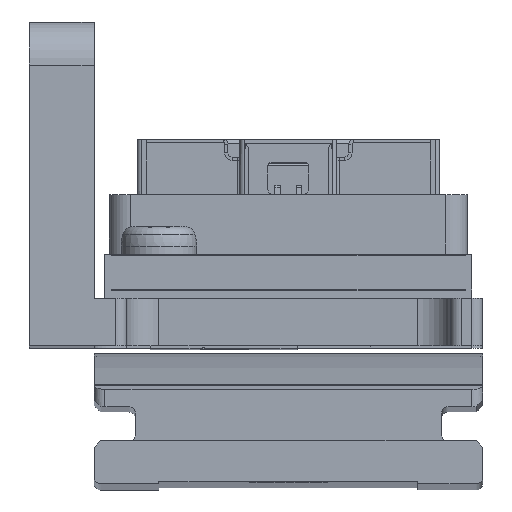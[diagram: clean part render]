
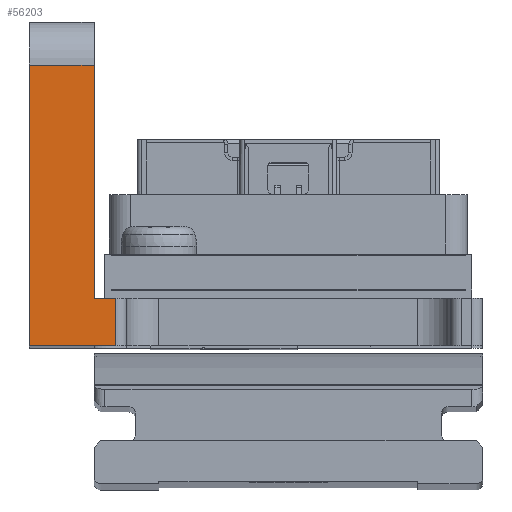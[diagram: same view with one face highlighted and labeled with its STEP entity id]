
A CAD part, top view. The second image highlights one B-rep face of the part: STEP entity #56203.
In plain terms, the highlighted planar face has unit normal (0, 0, 1).
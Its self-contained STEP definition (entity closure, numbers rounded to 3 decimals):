
#1159 = VERTEX_POINT ( 'NONE', #39634 ) ;
#1707 = CARTESIAN_POINT ( 'NONE',  ( 0., 13., 37.5 ) ) ;
#4162 = AXIS2_PLACEMENT_3D ( 'NONE', #29966, #55565, #7286 ) ;
#6655 = DIRECTION ( 'NONE',  ( -1., 0., 0. ) ) ;
#7286 = DIRECTION ( 'NONE',  ( -1., 0., 0. ) ) ;
#8971 = LINE ( 'NONE', #25866, #33551 ) ;
#10168 = ORIENTED_EDGE ( 'NONE', *, *, #41789, .T. ) ;
#10324 = DIRECTION ( 'NONE',  ( 0., 1., 0. ) ) ;
#11667 = VERTEX_POINT ( 'NONE', #20547 ) ;
#14358 = EDGE_CURVE ( 'NONE', #53769, #30099, #8971, .T. ) ;
#15354 = EDGE_CURVE ( 'NONE', #30099, #30611, #28800, .T. ) ;
#20547 = CARTESIAN_POINT ( 'NONE',  ( 0., 13., 37.5 ) ) ;
#21946 = DIRECTION ( 'NONE',  ( -1., 0., 0. ) ) ;
#22498 = EDGE_LOOP ( 'NONE', ( #40302, #51615, #10168, #38696, #45938, #48378 ) ) ;
#23544 = LINE ( 'NONE', #37197, #45665 ) ;
#25866 = CARTESIAN_POINT ( 'NONE',  ( 21., 0., 37.5 ) ) ;
#26726 = DIRECTION ( 'NONE',  ( 1., 0., 0. ) ) ;
#27374 = EDGE_CURVE ( 'NONE', #1159, #29647, #40853, .T. ) ;
#28065 = CARTESIAN_POINT ( 'NONE',  ( 3., 15., 37.5 ) ) ;
#28800 = LINE ( 'NONE', #47669, #32544 ) ;
#28959 = CARTESIAN_POINT ( 'NONE',  ( 4., 0., 37.5 ) ) ;
#29647 = VERTEX_POINT ( 'NONE', #46450 ) ;
#29966 = CARTESIAN_POINT ( 'NONE',  ( 0., 0., 37.5 ) ) ;
#30099 = VERTEX_POINT ( 'NONE', #28959 ) ;
#30611 = VERTEX_POINT ( 'NONE', #50922 ) ;
#30949 = CARTESIAN_POINT ( 'NONE',  ( 3., 2.2, 37.5 ) ) ;
#32544 = VECTOR ( 'NONE', #38393, 1000. ) ;
#33551 = VECTOR ( 'NONE', #26726, 1000. ) ;
#34036 = FACE_OUTER_BOUND ( 'NONE', #22498, .T. ) ;
#34053 = VECTOR ( 'NONE', #6655, 1000. ) ;
#37197 = CARTESIAN_POINT ( 'NONE',  ( 0., 0., 37.5 ) ) ;
#38184 = EDGE_CURVE ( 'NONE', #29647, #11667, #41551, .T. ) ;
#38393 = DIRECTION ( 'NONE',  ( 0., 1., 0. ) ) ;
#38696 = ORIENTED_EDGE ( 'NONE', *, *, #14358, .T. ) ;
#39634 = CARTESIAN_POINT ( 'NONE',  ( 3., 2.2, 37.5 ) ) ;
#40242 = LINE ( 'NONE', #30949, #51607 ) ;
#40302 = ORIENTED_EDGE ( 'NONE', *, *, #27374, .T. ) ;
#40853 = LINE ( 'NONE', #28065, #54709 ) ;
#41551 = LINE ( 'NONE', #1707, #34053 ) ;
#41789 = EDGE_CURVE ( 'NONE', #11667, #53769, #23544, .T. ) ;
#45665 = VECTOR ( 'NONE', #50559, 1000. ) ;
#45938 = ORIENTED_EDGE ( 'NONE', *, *, #15354, .T. ) ;
#46450 = CARTESIAN_POINT ( 'NONE',  ( 3., 13., 37.5 ) ) ;
#46814 = PLANE ( 'NONE',  #4162 ) ;
#47669 = CARTESIAN_POINT ( 'NONE',  ( 4., 0., 37.5 ) ) ;
#48378 = ORIENTED_EDGE ( 'NONE', *, *, #57211, .T. ) ;
#50559 = DIRECTION ( 'NONE',  ( 0., -1., 0. ) ) ;
#50922 = CARTESIAN_POINT ( 'NONE',  ( 4., 2.2, 37.5 ) ) ;
#51607 = VECTOR ( 'NONE', #21946, 1000. ) ;
#51615 = ORIENTED_EDGE ( 'NONE', *, *, #38184, .T. ) ;
#52587 = CARTESIAN_POINT ( 'NONE',  ( 0., 0., 37.5 ) ) ;
#53769 = VERTEX_POINT ( 'NONE', #52587 ) ;
#54709 = VECTOR ( 'NONE', #10324, 1000. ) ;
#55565 = DIRECTION ( 'NONE',  ( 0., 0., -1. ) ) ;
#56203 = ADVANCED_FACE ( 'NONE', ( #34036 ), #46814, .F. ) ;
#57211 = EDGE_CURVE ( 'NONE', #30611, #1159, #40242, .T. ) ;
